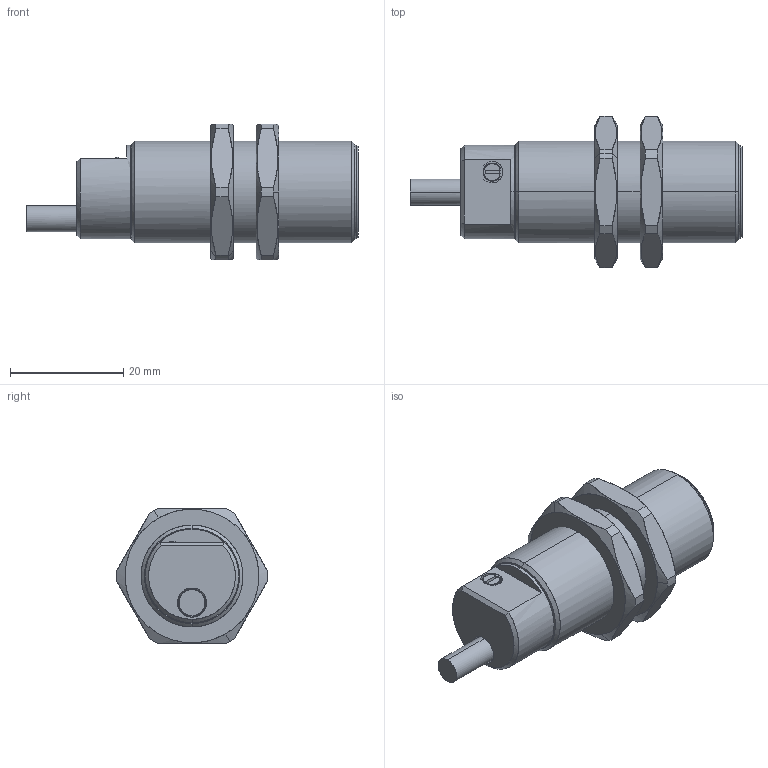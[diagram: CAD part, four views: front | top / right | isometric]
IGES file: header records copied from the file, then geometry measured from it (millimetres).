
Start section: Comment
Global section: file name: FxAM 18_Kabel_50_Poti seitlich.igs; native system:  By Spatial Corp.; preprocessor: XPlus GENERIC/IGES 3.0; author: Author; organization: Title; date: 20040804.173311; units: inch
Bounding box: 58.6 x 26.8 x 24 mm (x, y, z)
Surface area: 5458.7 mm2 (no closed solid volume)
Topology: 0 solids, 0 shells, 125 faces, 588 edges, 588 vertices
Faces by surface type: bspline 125
